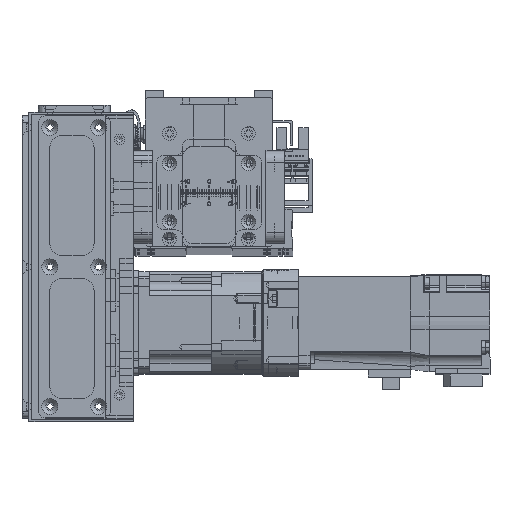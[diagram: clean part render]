
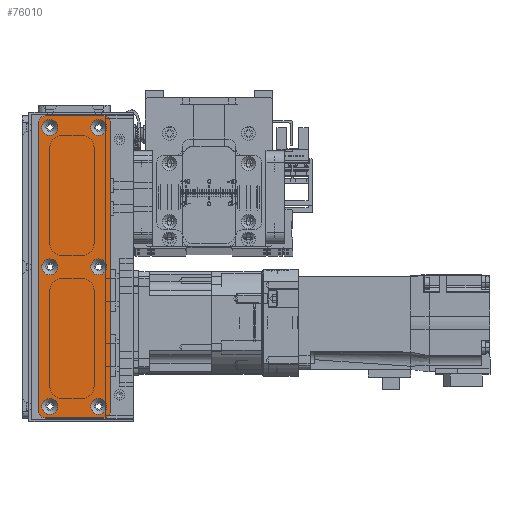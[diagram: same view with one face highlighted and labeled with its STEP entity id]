
A CAD part, top view. The second image highlights one B-rep face of the part: STEP entity #76010.
In plain terms, the highlighted planar face has unit normal (0, 0, 1).
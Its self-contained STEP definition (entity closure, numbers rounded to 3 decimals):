
#1914=FACE_BOUND('',#13172,.T.);
#1915=FACE_BOUND('',#13173,.T.);
#1916=FACE_BOUND('',#13174,.T.);
#1917=FACE_BOUND('',#13175,.T.);
#1918=FACE_BOUND('',#13176,.T.);
#1919=FACE_BOUND('',#13177,.T.);
#4526=PLANE('',#83638);
#8489=FACE_OUTER_BOUND('',#13171,.T.);
#13171=EDGE_LOOP('',(#70997,#70998,#70999,#71000,#71001,#71002,#71003,#71004));
#13172=EDGE_LOOP('',(#71005));
#13173=EDGE_LOOP('',(#71006));
#13174=EDGE_LOOP('',(#71007));
#13175=EDGE_LOOP('',(#71008));
#13176=EDGE_LOOP('',(#71009));
#13177=EDGE_LOOP('',(#71010));
#16233=CIRCLE('',#83592,3.45);
#16236=CIRCLE('',#83597,3.45);
#16239=CIRCLE('',#83602,3.45);
#16242=CIRCLE('',#83607,3.45);
#16245=CIRCLE('',#83612,3.45);
#16248=CIRCLE('',#83617,3.45);
#16255=CIRCLE('',#83627,3.);
#16256=CIRCLE('',#83630,3.);
#16257=CIRCLE('',#83633,3.);
#16258=CIRCLE('',#83636,3.);
#23879=LINE('',#131543,#31509);
#23882=LINE('',#131551,#31512);
#23885=LINE('',#131559,#31515);
#23888=LINE('',#131566,#31518);
#31509=VECTOR('',#104762,10.);
#31512=VECTOR('',#104771,10.);
#31515=VECTOR('',#104780,10.);
#31518=VECTOR('',#104789,10.);
#38592=VERTEX_POINT('',#131459);
#38595=VERTEX_POINT('',#131469);
#38598=VERTEX_POINT('',#131479);
#38601=VERTEX_POINT('',#131489);
#38604=VERTEX_POINT('',#131499);
#38607=VERTEX_POINT('',#131509);
#38618=VERTEX_POINT('',#131536);
#38619=VERTEX_POINT('',#131538);
#38620=VERTEX_POINT('',#131542);
#38621=VERTEX_POINT('',#131546);
#38622=VERTEX_POINT('',#131550);
#38623=VERTEX_POINT('',#131554);
#38624=VERTEX_POINT('',#131558);
#38625=VERTEX_POINT('',#131562);
#49367=EDGE_CURVE('',#38592,#38592,#16233,.T.);
#49372=EDGE_CURVE('',#38595,#38595,#16236,.T.);
#49377=EDGE_CURVE('',#38598,#38598,#16239,.T.);
#49382=EDGE_CURVE('',#38601,#38601,#16242,.T.);
#49387=EDGE_CURVE('',#38604,#38604,#16245,.T.);
#49392=EDGE_CURVE('',#38607,#38607,#16248,.T.);
#49406=EDGE_CURVE('',#38619,#38618,#16255,.T.);
#49408=EDGE_CURVE('',#38620,#38619,#23879,.T.);
#49410=EDGE_CURVE('',#38621,#38620,#16256,.T.);
#49412=EDGE_CURVE('',#38622,#38621,#23882,.T.);
#49414=EDGE_CURVE('',#38623,#38622,#16257,.T.);
#49416=EDGE_CURVE('',#38624,#38623,#23885,.T.);
#49418=EDGE_CURVE('',#38625,#38624,#16258,.T.);
#49420=EDGE_CURVE('',#38618,#38625,#23888,.T.);
#70997=ORIENTED_EDGE('',*,*,#49420,.T.);
#70998=ORIENTED_EDGE('',*,*,#49418,.T.);
#70999=ORIENTED_EDGE('',*,*,#49416,.T.);
#71000=ORIENTED_EDGE('',*,*,#49414,.T.);
#71001=ORIENTED_EDGE('',*,*,#49412,.T.);
#71002=ORIENTED_EDGE('',*,*,#49410,.T.);
#71003=ORIENTED_EDGE('',*,*,#49408,.T.);
#71004=ORIENTED_EDGE('',*,*,#49406,.T.);
#71005=ORIENTED_EDGE('',*,*,#49367,.T.);
#71006=ORIENTED_EDGE('',*,*,#49372,.T.);
#71007=ORIENTED_EDGE('',*,*,#49377,.T.);
#71008=ORIENTED_EDGE('',*,*,#49382,.T.);
#71009=ORIENTED_EDGE('',*,*,#49387,.T.);
#71010=ORIENTED_EDGE('',*,*,#49392,.T.);
#76010=ADVANCED_FACE('',(#8489,#1914,#1915,#1916,#1917,#1918,#1919),#4526,
 .T.);
#83592=AXIS2_PLACEMENT_3D('',#131460,#104670,#104671);
#83597=AXIS2_PLACEMENT_3D('',#131470,#104682,#104683);
#83602=AXIS2_PLACEMENT_3D('',#131480,#104694,#104695);
#83607=AXIS2_PLACEMENT_3D('',#131490,#104706,#104707);
#83612=AXIS2_PLACEMENT_3D('',#131500,#104718,#104719);
#83617=AXIS2_PLACEMENT_3D('',#131510,#104730,#104731);
#83627=AXIS2_PLACEMENT_3D('',#131539,#104757,#104758);
#83630=AXIS2_PLACEMENT_3D('',#131547,#104766,#104767);
#83633=AXIS2_PLACEMENT_3D('',#131555,#104775,#104776);
#83636=AXIS2_PLACEMENT_3D('',#131563,#104784,#104785);
#83638=AXIS2_PLACEMENT_3D('',#131567,#104790,#104791);
#104670=DIRECTION('center_axis',(0.,0.,-1.));
#104671=DIRECTION('ref_axis',(1.,0.,0.));
#104682=DIRECTION('center_axis',(0.,0.,-1.));
#104683=DIRECTION('ref_axis',(1.,0.,0.));
#104694=DIRECTION('center_axis',(0.,0.,-1.));
#104695=DIRECTION('ref_axis',(1.,0.,0.));
#104706=DIRECTION('center_axis',(0.,0.,-1.));
#104707=DIRECTION('ref_axis',(1.,0.,0.));
#104718=DIRECTION('center_axis',(0.,0.,-1.));
#104719=DIRECTION('ref_axis',(1.,0.,0.));
#104730=DIRECTION('center_axis',(0.,0.,-1.));
#104731=DIRECTION('ref_axis',(1.,0.,0.));
#104757=DIRECTION('center_axis',(0.,0.,1.));
#104758=DIRECTION('ref_axis',(0.,1.,0.));
#104762=DIRECTION('',(-1.,0.,0.));
#104766=DIRECTION('center_axis',(0.,0.,1.));
#104767=DIRECTION('ref_axis',(1.,0.,0.));
#104771=DIRECTION('',(0.,1.,0.));
#104775=DIRECTION('center_axis',(0.,0.,1.));
#104776=DIRECTION('ref_axis',(0.,-1.,0.));
#104780=DIRECTION('',(1.,0.,0.));
#104784=DIRECTION('center_axis',(0.,0.,1.));
#104785=DIRECTION('ref_axis',(-1.,0.,0.));
#104789=DIRECTION('',(0.,-1.,0.));
#104790=DIRECTION('center_axis',(0.,0.,1.));
#104791=DIRECTION('ref_axis',(1.,0.,0.));
#131459=CARTESIAN_POINT('',(-3.45,10.5,1.5));
#131460=CARTESIAN_POINT('Origin',(0.,10.5,1.5));
#131469=CARTESIAN_POINT('',(56.55,-10.5,1.5));
#131470=CARTESIAN_POINT('Origin',(60.,-10.5,1.5));
#131479=CARTESIAN_POINT('',(-63.45,10.5,1.5));
#131480=CARTESIAN_POINT('Origin',(-60.,10.5,1.5));
#131489=CARTESIAN_POINT('',(56.55,10.5,1.5));
#131490=CARTESIAN_POINT('Origin',(60.,10.5,1.5));
#131499=CARTESIAN_POINT('',(-63.45,-10.5,1.5));
#131500=CARTESIAN_POINT('Origin',(-60.,-10.5,1.5));
#131509=CARTESIAN_POINT('',(-3.45,-10.5,1.5));
#131510=CARTESIAN_POINT('Origin',(0.,-10.5,1.5));
#131536=CARTESIAN_POINT('',(-65.,12.5,1.5));
#131538=CARTESIAN_POINT('',(-62.,15.5,1.5));
#131539=CARTESIAN_POINT('Origin',(-62.,12.5,1.5));
#131542=CARTESIAN_POINT('',(62.,15.5,1.5));
#131543=CARTESIAN_POINT('',(62.,15.5,1.5));
#131546=CARTESIAN_POINT('',(65.,12.5,1.5));
#131547=CARTESIAN_POINT('Origin',(62.,12.5,1.5));
#131550=CARTESIAN_POINT('',(65.,-12.5,1.5));
#131551=CARTESIAN_POINT('',(65.,-12.5,1.5));
#131554=CARTESIAN_POINT('',(62.,-15.5,1.5));
#131555=CARTESIAN_POINT('Origin',(62.,-12.5,1.5));
#131558=CARTESIAN_POINT('',(-62.,-15.5,1.5));
#131559=CARTESIAN_POINT('',(-62.,-15.5,1.5));
#131562=CARTESIAN_POINT('',(-65.,-12.5,1.5));
#131563=CARTESIAN_POINT('Origin',(-62.,-12.5,1.5));
#131566=CARTESIAN_POINT('',(-65.,12.5,1.5));
#131567=CARTESIAN_POINT('Origin',(0.,0.,
1.5));
